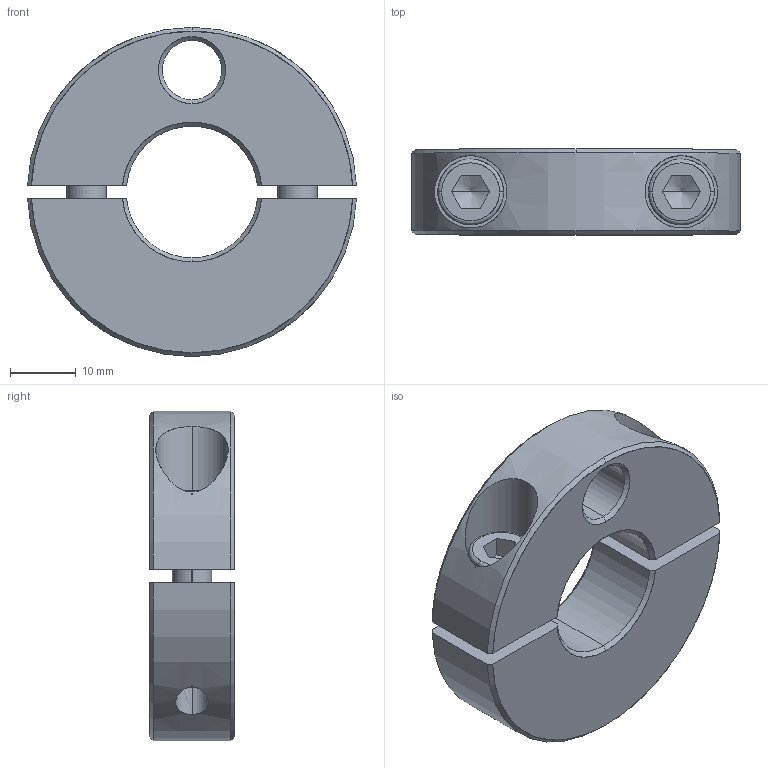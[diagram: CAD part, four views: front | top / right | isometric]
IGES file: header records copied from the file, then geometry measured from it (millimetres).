
Start section: SolidWorks IGES FILE using analytic representation for surfaces
Global section: file name: C:\WIX2\Positioning\3865\3865W120.igs; native system: SolidWorks 2003 by SolidWorks Corporation; preprocessor: Version 5.3; author: Joan; date: 030722.173001; units: millimetre
Bounding box: 49.96 x 13 x 50 mm (x, y, z)
Surface area: 9652.4 mm2 (no closed solid volume)
Topology: 0 solids, 0 shells, 100 faces, 1626 edges, 1622 vertices
Faces by surface type: revolution 66, bspline 34
